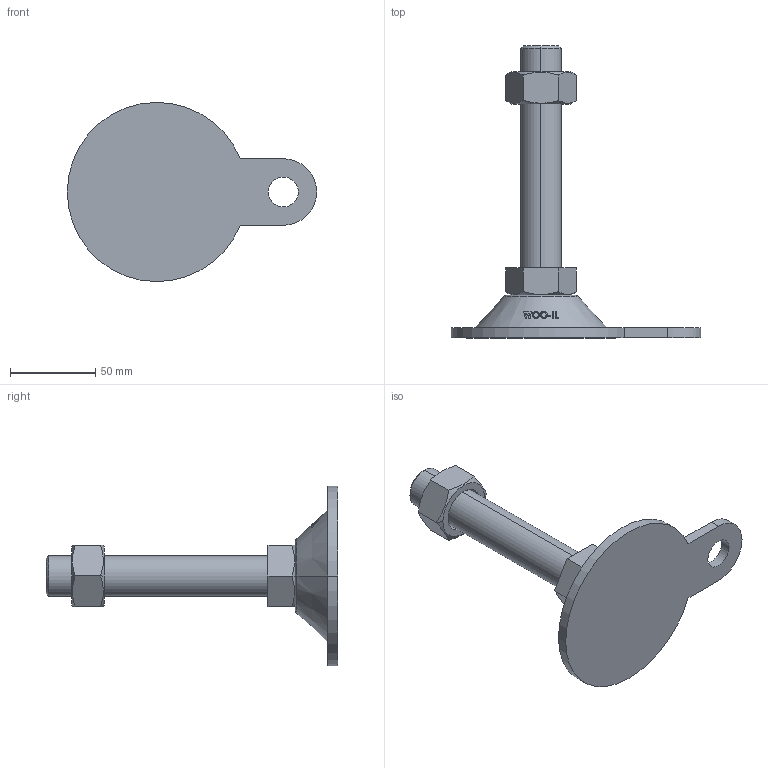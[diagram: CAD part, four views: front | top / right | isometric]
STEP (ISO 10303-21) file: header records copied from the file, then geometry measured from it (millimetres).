
FILE_DESCRIPTION (( 'STEP AP214' ), '1' );
FILE_NAME ('ABL105-M24-130.step', '2021-02-05T04:17:12', ( '' ), ( '' ), 'SwSTEP 2.0', 'SolidWorks 2019', '' );
FILE_SCHEMA (( 'AUTOMOTIVE_DESIGN' ));
Length unit declared in the file: millimetre
Products named in the file (2): ABL105-M24-130
Bounding box: 146 x 171 x 104.98 mm (x, y, z)
Volume: 202918.9 mm3; surface area: 41059.2 mm2
Topology: 2 solids, 2 shells, 128 faces, 325 edges, 212 vertices
Faces by surface type: plane 48, cylinder 38, cone 22, bspline 18, torus 2
Entity records: 5469 total; most frequent: CARTESIAN_POINT 2583, ORIENTED_EDGE 650, DIRECTION 473, EDGE_CURVE 325, VERTEX_POINT 212, AXIS2_PLACEMENT_3D 176, EDGE_LOOP 143, B_SPLINE_CURVE_WITH_KNOTS 140
